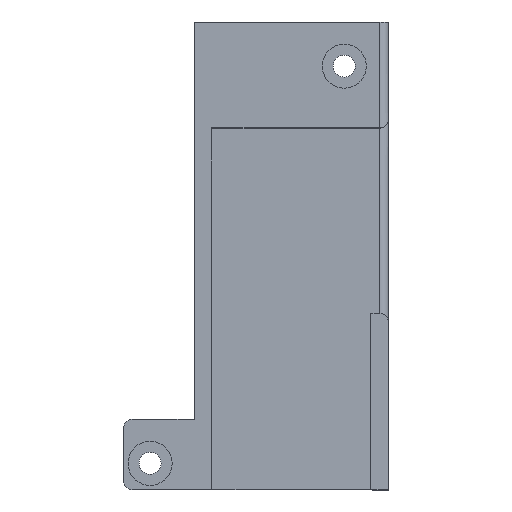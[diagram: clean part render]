
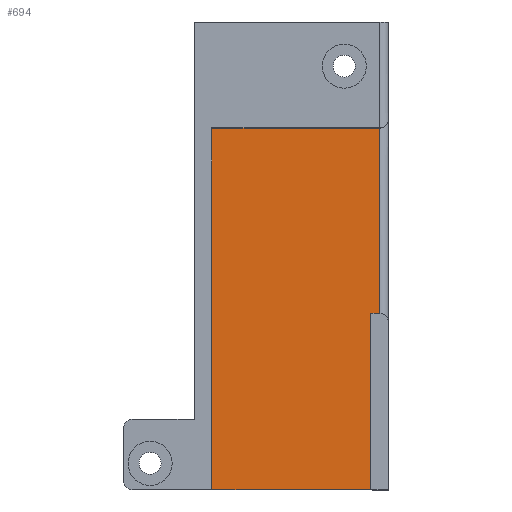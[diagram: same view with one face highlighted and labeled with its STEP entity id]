
A CAD part, top view. The second image highlights one B-rep face of the part: STEP entity #694.
In plain terms, the highlighted planar face has unit normal (0, 0, 1).
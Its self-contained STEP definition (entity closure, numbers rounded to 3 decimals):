
#37=PLANE('',#761);
#58=FACE_OUTER_BOUND('',#103,.T.);
#103=EDGE_LOOP('',(#490,#491,#492,#493,#494,#495));
#172=LINE('',#1089,#231);
#174=LINE('',#1093,#233);
#175=LINE('',#1095,#234);
#176=LINE('',#1097,#235);
#177=LINE('',#1099,#236);
#178=LINE('',#1100,#237);
#231=VECTOR('',#860,10.);
#233=VECTOR('',#864,10.);
#234=VECTOR('',#865,10.);
#235=VECTOR('',#866,10.);
#236=VECTOR('',#867,10.);
#237=VECTOR('',#868,10.);
#314=VERTEX_POINT('',#1072);
#319=VERTEX_POINT('',#1088);
#320=VERTEX_POINT('',#1092);
#321=VERTEX_POINT('',#1094);
#322=VERTEX_POINT('',#1096);
#323=VERTEX_POINT('',#1098);
#384=EDGE_CURVE('',#319,#314,#172,.T.);
#386=EDGE_CURVE('',#320,#314,#174,.T.);
#387=EDGE_CURVE('',#320,#321,#175,.T.);
#388=EDGE_CURVE('',#321,#322,#176,.T.);
#389=EDGE_CURVE('',#323,#322,#177,.T.);
#390=EDGE_CURVE('',#323,#319,#178,.T.);
#490=ORIENTED_EDGE('',*,*,#386,.F.);
#491=ORIENTED_EDGE('',*,*,#387,.T.);
#492=ORIENTED_EDGE('',*,*,#388,.T.);
#493=ORIENTED_EDGE('',*,*,#389,.F.);
#494=ORIENTED_EDGE('',*,*,#390,.T.);
#495=ORIENTED_EDGE('',*,*,#384,.T.);
#694=ADVANCED_FACE('',(#58),#37,.T.);
#761=AXIS2_PLACEMENT_3D('',#1091,#862,#863);
#860=DIRECTION('',(1.,0.,0.));
#862=DIRECTION('center_axis',(0.,0.,1.));
#863=DIRECTION('ref_axis',(0.,1.,0.));
#864=DIRECTION('',(0.,-1.,0.));
#865=DIRECTION('',(-1.,0.,0.));
#866=DIRECTION('',(0.,-1.,0.));
#867=DIRECTION('',(-1.,0.,0.));
#868=DIRECTION('',(0.,1.,0.));
#1072=CARTESIAN_POINT('',(-1.,20.,-11.));
#1088=CARTESIAN_POINT('',(-2.,20.,-11.));
#1089=CARTESIAN_POINT('',(0.,20.,-11.));
#1091=CARTESIAN_POINT('Origin',(0.,0.,-11.));
#1092=CARTESIAN_POINT('',(-1.,41.,-11.));
#1093=CARTESIAN_POINT('',(-1.,14.542,-11.));
#1094=CARTESIAN_POINT('',(-20.,41.,-11.));
#1095=CARTESIAN_POINT('',(0.,41.,-11.));
#1096=CARTESIAN_POINT('',(-20.,0.,-11.));
#1097=CARTESIAN_POINT('',(-20.,10.38,-11.));
#1098=CARTESIAN_POINT('',(-2.,0.,-11.));
#1099=CARTESIAN_POINT('',(0.,0.,-11.));
#1100=CARTESIAN_POINT('',(-2.,5.,-11.));
